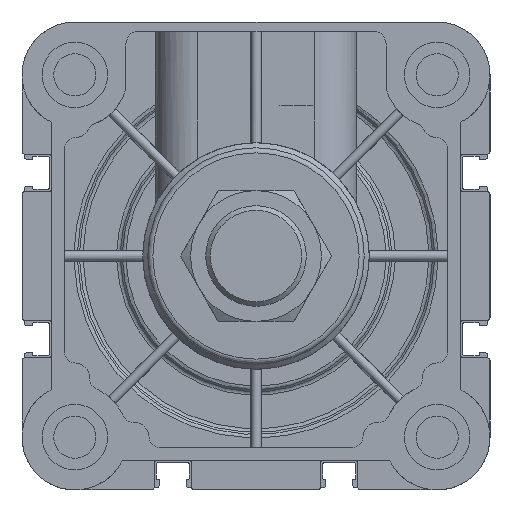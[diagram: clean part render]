
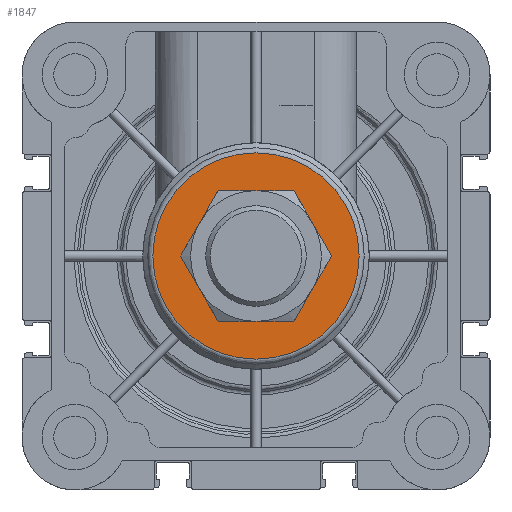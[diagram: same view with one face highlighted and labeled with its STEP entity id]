
A CAD part, left-side view. The second image highlights one B-rep face of the part: STEP entity #1847.
In plain terms, the highlighted planar face has unit normal (-1, 0, 0).
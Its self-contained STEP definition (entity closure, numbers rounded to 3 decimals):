
#1847 = ADVANCED_FACE( '', ( #3970, #3971 ), #3972, .F. );
#3970 = FACE_BOUND( '', #6314, .T. );
#3971 = FACE_OUTER_BOUND( '', #6315, .T. );
#3972 = PLANE( '', #6316 );
#6314 = EDGE_LOOP( '', ( #11752 ) );
#6315 = EDGE_LOOP( '', ( #11753 ) );
#6316 = AXIS2_PLACEMENT_3D( '', #11754, #11755, #11756 );
#11752 = ORIENTED_EDGE( '', *, *, #15871, .F. );
#11753 = ORIENTED_EDGE( '', *, *, #15427, .T. );
#11754 = CARTESIAN_POINT( '', ( -33., 0., 20.5 ) );
#11755 = DIRECTION( '', ( 1., 0., 0. ) );
#11756 = DIRECTION( '', ( 0., 0., -1. ) );
#15427 = EDGE_CURVE( '', #19120, #19120, #19121, .T. );
#15871 = EDGE_CURVE( '', #19710, #19710, #19711, .F. );
#19120 = VERTEX_POINT( '', #24575 );
#19121 = CIRCLE( '', #24576, 20.5 );
#19710 = VERTEX_POINT( '', #25515 );
#19711 = CIRCLE( '', #25516, 12.5 );
#24575 = CARTESIAN_POINT( '', ( -33., 0., 20.5 ) );
#24576 = AXIS2_PLACEMENT_3D( '', #28439, #28440, #28441 );
#25515 = CARTESIAN_POINT( '', ( -33., 0., -12.5 ) );
#25516 = AXIS2_PLACEMENT_3D( '', #28951, #28952, #28953 );
#28439 = CARTESIAN_POINT( '', ( -33., 0., 0. ) );
#28440 = DIRECTION( '', ( -1., 0., 0. ) );
#28441 = DIRECTION( '', ( 0., 0., 1. ) );
#28951 = CARTESIAN_POINT( '', ( -33., 0., 0. ) );
#28952 = DIRECTION( '', ( 1., 0., 0. ) );
#28953 = DIRECTION( '', ( 0., 0., -1. ) );
